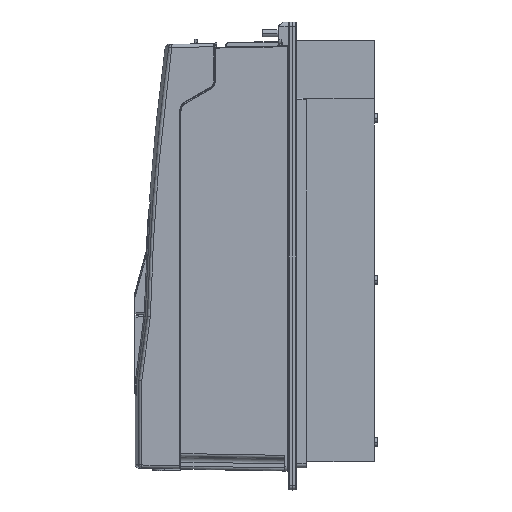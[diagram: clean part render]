
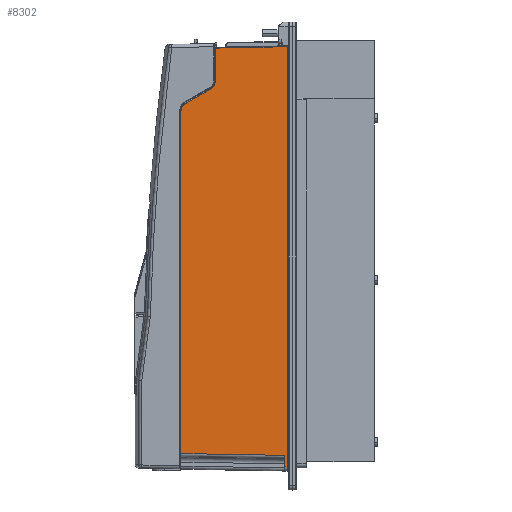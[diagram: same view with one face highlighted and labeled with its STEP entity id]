
A CAD part, left-side view. The second image highlights one B-rep face of the part: STEP entity #8302.
In plain terms, the highlighted planar face has unit normal (-1, 0.018, 0) as drawn and (1, 0.018, 0) by its records, which use the part's own axes.
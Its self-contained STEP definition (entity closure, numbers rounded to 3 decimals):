
#592 = LINE ( 'NONE', #53205, #13089 ) ;
#1404 = PLANE ( 'NONE',  #32991 ) ;
#3244 = CARTESIAN_POINT ( 'NONE',  ( 121.186, 118.01, 64.519 ) ) ;
#4561 = CARTESIAN_POINT ( 'NONE',  ( 123.213, 4.86, 454.589 ) ) ;
#6025 = CARTESIAN_POINT ( 'NONE',  ( 121.834, 81.804, 41.46 ) ) ;
#6404 = VERTEX_POINT ( 'NONE', #45649 ) ;
#6449 = VECTOR ( 'NONE', #93460, 1000. ) ;
#6780 = DIRECTION ( 'NONE',  ( 0., 0., 1. ) ) ;
#7001 = ORIENTED_EDGE ( 'NONE', *, *, #52891, .T. ) ;
#7185 = DIRECTION ( 'NONE',  ( -0.016, 0.866, 0.5 ) ) ;
#7797 = VERTEX_POINT ( 'NONE', #22289 ) ;
#7861 = ORIENTED_EDGE ( 'NONE', *, *, #27512, .T. ) ;
#8302 = ADVANCED_FACE ( 'NONE', ( #70833 ), #1404, .F. ) ;
#8307 = LINE ( 'NONE', #14375, #6449 ) ;
#10831 = CARTESIAN_POINT ( 'NONE',  ( 121.154, 119.804, 67.626 ) ) ;
#11064 = CARTESIAN_POINT ( 'NONE',  ( 120.989, 129.004, 1.902 ) ) ;
#12881 = CARTESIAN_POINT ( 'NONE',  ( 121.241, 114.904, 62.726 ) ) ;
#13089 = VECTOR ( 'NONE', #62421, 1000. ) ;
#13105 = EDGE_CURVE ( 'NONE', #45081, #61401, #54147, .T. ) ;
#13211 = ORIENTED_EDGE ( 'NONE', *, *, #25695, .T. ) ;
#14375 = CARTESIAN_POINT ( 'NONE',  ( 123.275, 1.413, 466.002 ) ) ;
#14984 = DIRECTION ( 'NONE',  ( 0., 0., 1. ) ) ;
#18852 = B_SPLINE_CURVE_WITH_KNOTS ( 'NONE', 3,
 ( #74008, #66380, #89710, #4561, #97295, #27868 ),
 .UNSPECIFIED., .F., .F.,
 ( 4, 2, 4 ),
 ( 0., 0.001, 0.002 ),
 .UNSPECIFIED. ) ;
#20862 = LINE ( 'NONE', #27466, #60074 ) ;
#22076 = CARTESIAN_POINT ( 'NONE',  ( 121.834, 81.804, 37.726 ) ) ;
#22289 = CARTESIAN_POINT ( 'NONE',  ( 123.269, 1.704, 465.997 ) ) ;
#23619 = CARTESIAN_POINT ( 'NONE',  ( 121.743, 86.904, 46.56 ) ) ;
#23920 = EDGE_CURVE ( 'NONE', #26099, #61401, #83550, .T. ) ;
#24707 = DIRECTION ( 'NONE',  ( -1., -0.018, 0. ) ) ;
#25695 = EDGE_CURVE ( 'NONE', #33854, #32186, #29979, .T. ) ;
#26099 = VERTEX_POINT ( 'NONE', #78536 ) ;
#27466 = CARTESIAN_POINT ( 'NONE',  ( 123.212, 4.939, 453.502 ) ) ;
#27512 = EDGE_CURVE ( 'NONE', #33949, #7797, #8307, .T. ) ;
#27868 = CARTESIAN_POINT ( 'NONE',  ( 123.214, 4.804, 455.156 ) ) ;
#28195 = EDGE_CURVE ( 'NONE', #71786, #26099, #100147, .T. ) ;
#28869 = EDGE_CURVE ( 'NONE', #93533, #57166, #20862, .T. ) ;
#29011 = EDGE_CURVE ( 'NONE', #7797, #45081, #592, .T. ) ;
#29022 = CARTESIAN_POINT ( 'NONE',  ( 121.84, 81.5, 0.99 ) ) ;
#29579 = LINE ( 'NONE', #76202, #63890 ) ;
#29793 = DIRECTION ( 'NONE',  ( 0., 0., -1. ) ) ;
#29979 = LINE ( 'NONE', #46155, #75833 ) ;
#30860 = VECTOR ( 'NONE', #14984, 1000. ) ;
#32175 = CARTESIAN_POINT ( 'NONE',  ( 121.241, 114.904, 62.726 ) ) ;
#32186 = VERTEX_POINT ( 'NONE', #12881 ) ;
#32991 = AXIS2_PLACEMENT_3D ( 'NONE', #87523, #24707, #54551 ) ;
#33854 = VERTEX_POINT ( 'NONE', #23619 ) ;
#33949 = VERTEX_POINT ( 'NONE', #34684 ) ;
#34561 = VECTOR ( 'NONE', #70940, 1000. ) ;
#34684 = CARTESIAN_POINT ( 'NONE',  ( 123.214, 4.804, 465.943 ) ) ;
#36450 = DIRECTION ( 'NONE',  ( 0.018, -1., 0. ) ) ;
#37917 = ORIENTED_EDGE ( 'NONE', *, *, #29011, .T. ) ;
#40946 = EDGE_CURVE ( 'NONE', #6404, #33949, #29579, .T. ) ;
#44984 = CARTESIAN_POINT ( 'NONE',  ( 121.801, 83.67, 44.693 ) ) ;
#45081 = VERTEX_POINT ( 'NONE', #49297 ) ;
#45649 = CARTESIAN_POINT ( 'NONE',  ( 123.214, 4.804, 455.156 ) ) ;
#45896 = CARTESIAN_POINT ( 'NONE',  ( 121.15, 120., 37.726 ) ) ;
#46155 = CARTESIAN_POINT ( 'NONE',  ( 121.241, 114.901, 62.724 ) ) ;
#47228 = ORIENTED_EDGE ( 'NONE', *, *, #87280, .T. ) ;
#49297 = CARTESIAN_POINT ( 'NONE',  ( 123.269, 1.704, -0.542 ) ) ;
#49898 = VECTOR ( 'NONE', #29793, 1000. ) ;
#50225 = ORIENTED_EDGE ( 'NONE', *, *, #28869, .T. ) ;
#52891 = EDGE_CURVE ( 'NONE', #71786, #33854, #54209, .T. ) ;
#53205 = CARTESIAN_POINT ( 'NONE',  ( 123.269, 1.704, 471. ) ) ;
#54147 = LINE ( 'NONE', #11064, #34561 ) ;
#54209 =( BOUNDED_CURVE ( )  B_SPLINE_CURVE ( 3, ( #59748, #6025, #44984, #97752 ),
 .UNSPECIFIED., .F., .T. ) 
 B_SPLINE_CURVE_WITH_KNOTS ( ( 4, 4 ),
 ( 0., 1.047 ),
 .UNSPECIFIED. ) 
 CURVE ( )  GEOMETRIC_REPRESENTATION_ITEM ( )  RATIONAL_B_SPLINE_CURVE ( ( 1., 0.911, 0.911, 1. ) ) 
 REPRESENTATION_ITEM ( '' )  );
#54551 = DIRECTION ( 'NONE',  ( 0.018, -1., 0. ) ) ;
#57166 = VERTEX_POINT ( 'NONE', #87376 ) ;
#58377 = DIRECTION ( 'NONE',  ( 0.018, -1., 0.017 ) ) ;
#59748 = CARTESIAN_POINT ( 'NONE',  ( 121.834, 81.804, 37.726 ) ) ;
#60074 = VECTOR ( 'NONE', #58377, 1000. ) ;
#61401 = VERTEX_POINT ( 'NONE', #29022 ) ;
#62421 = DIRECTION ( 'NONE',  ( 0., 0., -1. ) ) ;
#63775 = CARTESIAN_POINT ( 'NONE',  ( 121.154, 119.804, 71.213 ) ) ;
#63890 = VECTOR ( 'NONE', #6780, 1000. ) ;
#66380 = CARTESIAN_POINT ( 'NONE',  ( 123.209, 5.102, 453.767 ) ) ;
#68554 = ORIENTED_EDGE ( 'NONE', *, *, #23920, .F. ) ;
#69229 = LINE ( 'NONE', #69738, #30860 ) ;
#69336 = ORIENTED_EDGE ( 'NONE', *, *, #28195, .F. ) ;
#69634 = VECTOR ( 'NONE', #36450, 1000. ) ;
#69738 = CARTESIAN_POINT ( 'NONE',  ( 121.154, 119.804, 471. ) ) ;
#70833 = FACE_OUTER_BOUND ( 'NONE', #88217, .T. ) ;
#70940 = DIRECTION ( 'NONE',  ( -0.018, 1., 0.019 ) ) ;
#71786 = VERTEX_POINT ( 'NONE', #22076 ) ;
#74008 = CARTESIAN_POINT ( 'NONE',  ( 123.207, 5.196, 453.497 ) ) ;
#74830 =( BOUNDED_CURVE ( )  B_SPLINE_CURVE ( 3, ( #32175, #3244, #10831, #86428 ),
 .UNSPECIFIED., .F., .T. ) 
 B_SPLINE_CURVE_WITH_KNOTS ( ( 4, 4 ),
 ( 2.094, 3.142 ),
 .UNSPECIFIED. ) 
 CURVE ( )  GEOMETRIC_REPRESENTATION_ITEM ( )  RATIONAL_B_SPLINE_CURVE ( ( 1., 0.911, 0.911, 1. ) ) 
 REPRESENTATION_ITEM ( '' )  );
#75833 = VECTOR ( 'NONE', #7185, 1000. ) ;
#76202 = CARTESIAN_POINT ( 'NONE',  ( 123.214, 4.804, 471. ) ) ;
#76677 = VERTEX_POINT ( 'NONE', #63775 ) ;
#78536 = CARTESIAN_POINT ( 'NONE',  ( 121.84, 81.5, 37.726 ) ) ;
#80297 = ORIENTED_EDGE ( 'NONE', *, *, #40946, .T. ) ;
#82054 = CARTESIAN_POINT ( 'NONE',  ( 121.84, 81.5, 471. ) ) ;
#83240 = ORIENTED_EDGE ( 'NONE', *, *, #89666, .T. ) ;
#83550 = LINE ( 'NONE', #82054, #49898 ) ;
#85992 = EDGE_CURVE ( 'NONE', #57166, #6404, #18852, .T. ) ;
#86428 = CARTESIAN_POINT ( 'NONE',  ( 121.154, 119.804, 71.213 ) ) ;
#87280 = EDGE_CURVE ( 'NONE', #32186, #76677, #74830, .T. ) ;
#87376 = CARTESIAN_POINT ( 'NONE',  ( 123.207, 5.196, 453.497 ) ) ;
#87523 = CARTESIAN_POINT ( 'NONE',  ( 121.15, 120., 471. ) ) ;
#88217 = EDGE_LOOP ( 'NONE', ( #69336, #7001, #13211, #47228, #83240, #50225, #90187, #80297, #7861, #37917, #89894, #68554 ) ) ;
#88641 = CARTESIAN_POINT ( 'NONE',  ( 121.154, 119.804, 451.497 ) ) ;
#89666 = EDGE_CURVE ( 'NONE', #76677, #93533, #69229, .T. ) ;
#89710 = CARTESIAN_POINT ( 'NONE',  ( 123.21, 5.009, 454.037 ) ) ;
#89894 = ORIENTED_EDGE ( 'NONE', *, *, #13105, .T. ) ;
#90187 = ORIENTED_EDGE ( 'NONE', *, *, #85992, .T. ) ;
#93460 = DIRECTION ( 'NONE',  ( 0.018, -1., 0.017 ) ) ;
#93533 = VERTEX_POINT ( 'NONE', #88641 ) ;
#97295 = CARTESIAN_POINT ( 'NONE',  ( 123.214, 4.804, 454.869 ) ) ;
#97752 = CARTESIAN_POINT ( 'NONE',  ( 121.743, 86.904, 46.56 ) ) ;
#100147 = LINE ( 'NONE', #45896, #69634 ) ;
